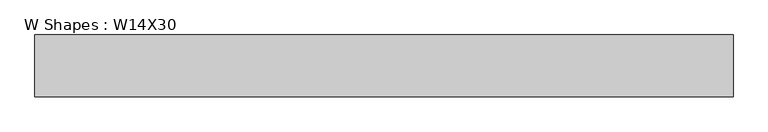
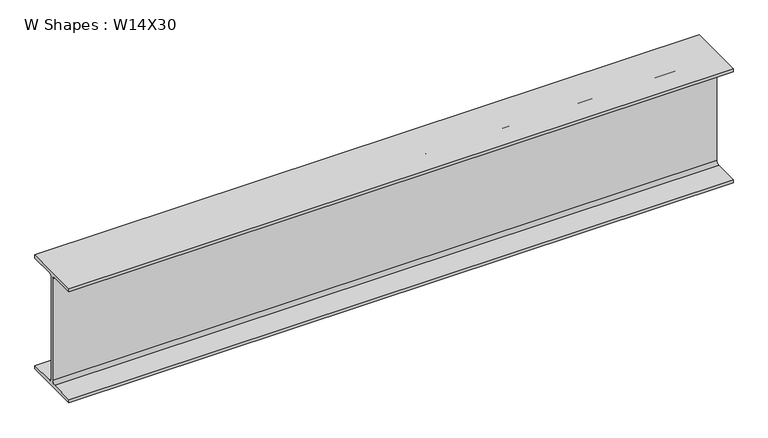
"""IFC4 building model written with IfcOpenShell, lengths in millimetres: beam geometry, W Shapes : W14X30."""

from ifc_helpers import new_model, si_unit, point, frame, frame_2d, origin, place, context, project, spatial, polyline, circle_curve, trimmed, segment, composite_curve, outline, extrude, source, transform, mapped, element, save


def w_shapes_w14x30_b0bda47b(model_context):
    return source(origin(), model_context, "Body", "SweptSolid", [
        extrude(outline(composite_curve([segment(polyline([(85.471, -165.354), (85.471, -175.26), (-85.471, -175.26), (-85.471, -165.354), (-13.589, -165.354)]), True, "CONTINUOUS"), segment(trimmed(circle_curve(frame_2d((-13.589, -155.194)), 10.16), [point((-13.589, -165.354))], [point((-3.429, -155.194))], True, "CARTESIAN"), True, "CONTINUOUS"), segment(polyline([(-3.429, -155.194), (-3.429, 155.194)]), True, "CONTINUOUS"), segment(trimmed(circle_curve(frame_2d((-13.589, 155.194)), 10.16), [point((-3.429, 155.194))], [point((-13.589, 165.354))], True, "CARTESIAN"), True, "CONTINUOUS"), segment(polyline([(-13.589, 165.354), (-85.471, 165.354), (-85.471, 175.26), (85.471, 175.26), (85.471, 165.354), (13.589, 165.354)]), True, "CONTINUOUS"), segment(trimmed(circle_curve(frame_2d((13.589, 155.194)), 10.16), [point((13.589, 165.354))], [point((3.429, 155.194))], True, "CARTESIAN"), True, "CONTINUOUS"), segment(polyline([(3.429, 155.194), (3.429, -155.194)]), True, "CONTINUOUS"), segment(trimmed(circle_curve(frame_2d((13.589, -155.194)), 10.16), [point((3.429, -155.194))], [point((13.589, -165.354))], True, "CARTESIAN"), True, "CONTINUOUS"), segment(polyline([(13.589, -165.354), (85.471, -165.354)]), True, "CONTINUOUS")], self_intersect=False)), frame((-1067.6147122, 0.0, 0.0), z_axis=(1.0, 0.0, 0.0), x_axis=(0.0, 1.0, 0.0)), (0.0, 0.0, 1.0), 1929.763636),
    ])


if __name__ == "__main__":
    model = new_model("IFC4")
    model_context = context("Model", 3, world=origin())
    ifc_project = project(units=[si_unit("LENGTHUNIT", "METRE", prefix="MILLI")], contexts=[model_context])
    site = spatial("IfcSite", under=ifc_project)
    building = spatial("IfcBuilding", under=site)
    placement = place(None, origin())
    w_shapes_w14x30_shape = w_shapes_w14x30_b0bda47b(model_context)
    element("IfcBeam", 1, ObjectType="W Shapes : W14X30", at=placement, inside=building, context=model_context, shape_type="MappedRepresentation", body=[
        mapped(w_shapes_w14x30_shape, transform((0.0, 0.0, 0.0), x_axis=(1.0, 0.0, 0.0), y_axis=(0.0, 1.0, 0.0), z_axis=(0.0, 0.0, 1.0))),
    ])
    save(model, "model.ifc")
